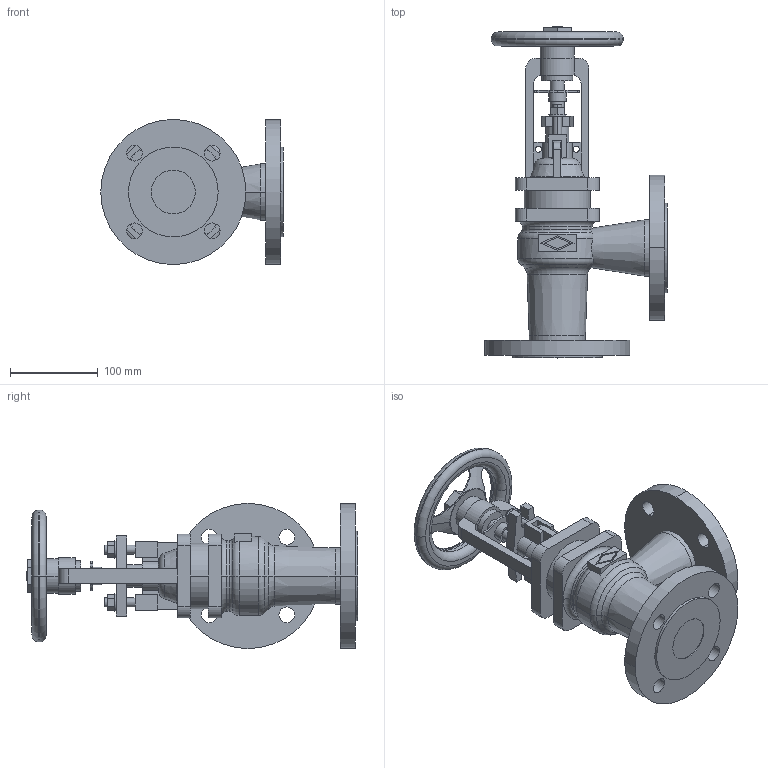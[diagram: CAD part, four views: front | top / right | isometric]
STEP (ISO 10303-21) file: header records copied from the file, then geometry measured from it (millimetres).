
FILE_DESCRIPTION(('OneSpaceDesigner STEP Export'),'2;1');
FILE_NAME('c000004450.stp','2010-05-17T 9:55:16',(''),(''),'OneSpace Designer STEP processor for AP214 (Solid Model)','OneSpace Modeling 15.50B 03-Nov-2007 (C) CoCreate Software GmbH','');
FILE_SCHEMA(('AUTOMOTIVE_DESIGN { 1 0 10303 214 1 1 1 1 }'));
Length unit declared in the file: millimetre
Products named in the file (1): 1
Bounding box: 207.5 x 377.4 x 165 mm (x, y, z)
Volume: 2236444.9 mm3; surface area: 268900.3 mm2
Topology: 1 solids, 1 shells, 297 faces, 791 edges, 519 vertices
Faces by surface type: plane 140, cylinder 113, torus 28, cone 16
Entity records: 11687 total; most frequent: CARTESIAN_POINT 2237, ORIENTED_EDGE 1574, DIRECTION 1317, EDGE_CURVE 787, VERTEX_POINT 515, AXIS2_PLACEMENT_3D 454, VECTOR 409, LINE 409
